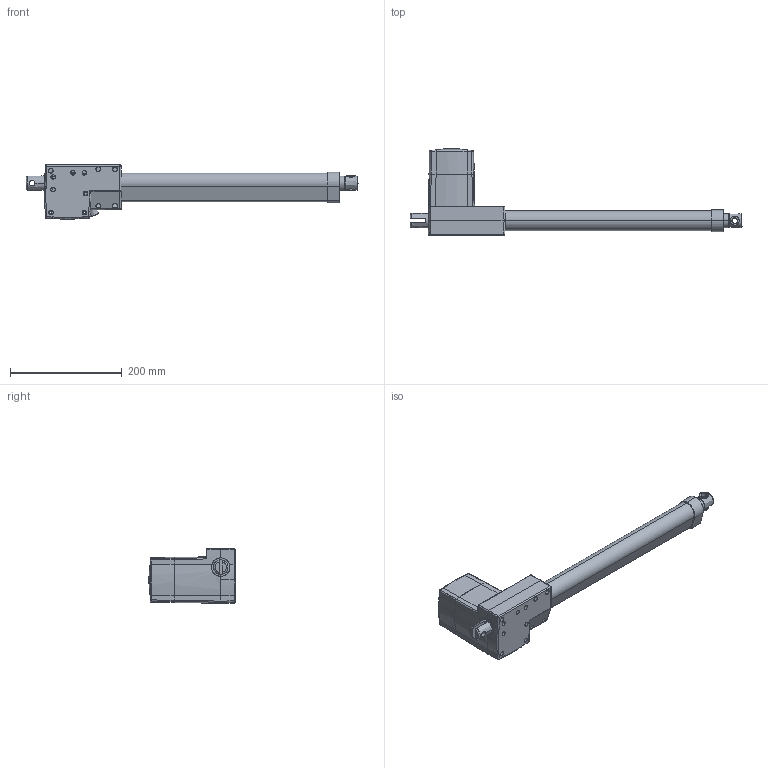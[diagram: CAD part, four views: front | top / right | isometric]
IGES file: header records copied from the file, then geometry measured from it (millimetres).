
Start section: SolidWorks IGES file using analytic representation for surfaces
Global section: file name: S:\R1一課\02-個人暫存資料\4137 廖麗芬\1223\LAM3_S350.IGS; native system: SolidWorks 2010; preprocessor: SolidWorks 2010; author: fuyao; date: 131223.141045; units: millimetre
Bounding box: 595 x 155 x 98 mm (x, y, z)
Surface area: 168954.8 mm2 (no closed solid volume)
Topology: 0 solids, 0 shells, 365 faces, 5357 edges, 5335 vertices
Faces by surface type: bspline 200, revolution 165
